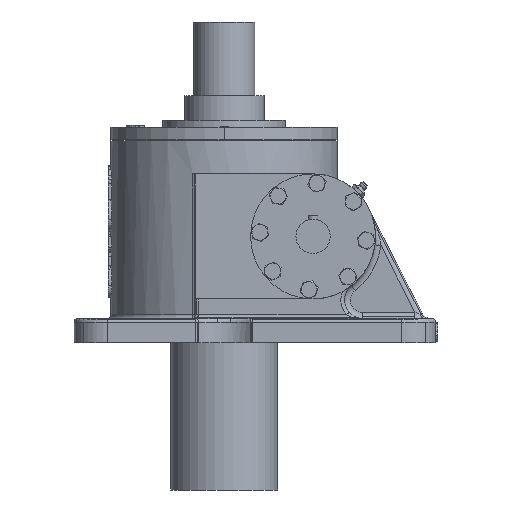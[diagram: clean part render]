
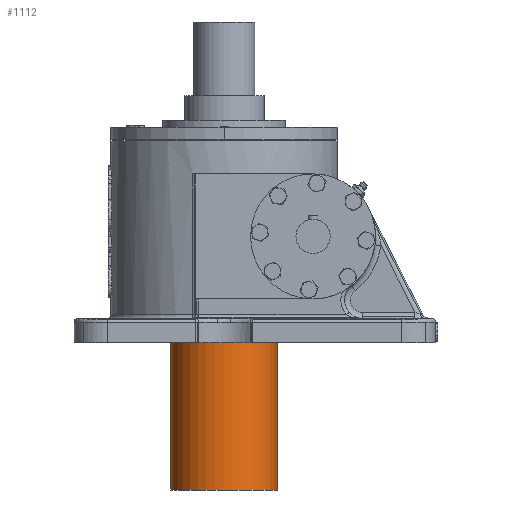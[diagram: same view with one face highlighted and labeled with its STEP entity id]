
A CAD part, front view. The second image highlights one B-rep face of the part: STEP entity #1112.
In plain terms, the highlighted cylindrical face has radius 43.5 mm (diameter 87 mm), a partial arc.
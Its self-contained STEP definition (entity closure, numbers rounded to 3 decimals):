
#1112=ADVANCED_FACE('',(#3289),#3290,.T.);
#3289=FACE_OUTER_BOUND('',#6374,.T.);
#3290=CYLINDRICAL_SURFACE('',#6375,43.5);
#6374=EDGE_LOOP('',(#14411,#14412,#14413,#14414));
#6375=AXIS2_PLACEMENT_3D('',#14415,#14416,#14417);
#14411=ORIENTED_EDGE('',*,*,#17551,.T.);
#14412=ORIENTED_EDGE('',*,*,#17555,.F.);
#14413=ORIENTED_EDGE('',*,*,#17553,.T.);
#14414=ORIENTED_EDGE('',*,*,#17556,.F.);
#14415=CARTESIAN_POINT('',(0.,0.,-60.0));
#14416=DIRECTION('',(0.,0.,-1.0));
#14417=DIRECTION('',(-1.0,0.,0.0));
#17551=EDGE_CURVE('',#21754,#21755,#21756,.T.);
#17553=EDGE_CURVE('',#21759,#21757,#21760,.T.);
#17555=EDGE_CURVE('',#21759,#21755,#21762,.T.);
#17556=EDGE_CURVE('',#21754,#21757,#21763,.T.);
#21754=VERTEX_POINT('',#30676);
#21755=VERTEX_POINT('',#30677);
#21756=LINE('',#30678,#30679);
#21757=VERTEX_POINT('',#30680);
#21759=VERTEX_POINT('',#30682);
#21760=LINE('',#30683,#30684);
#21762=CIRCLE('',#30686,43.5);
#21763=CIRCLE('',#30687,43.5);
#30676=CARTESIAN_POINT('',(-43.5,0.,0.0));
#30677=CARTESIAN_POINT('',(-43.5,0.,-120.0));
#30678=CARTESIAN_POINT('',(-43.5,0.,-60.0));
#30679=VECTOR('',#35266,1.0);
#30680=CARTESIAN_POINT('',(43.5,0.,0.));
#30682=CARTESIAN_POINT('',(43.5,0.,-120.0));
#30683=CARTESIAN_POINT('',(43.5,0.,-60.0));
#30684=VECTOR('',#35270,1.0);
#30686=AXIS2_PLACEMENT_3D('',#35274,#35275,#35276);
#30687=AXIS2_PLACEMENT_3D('',#35277,#35278,#35279);
#35266=DIRECTION('',(0.,0.,-1.0));
#35270=DIRECTION('',(0.,0.,1.0));
#35274=CARTESIAN_POINT('',(0.,0.,-120.0));
#35275=DIRECTION('',(0.,0.,-1.0));
#35276=DIRECTION('',(-1.0,0.,0.0));
#35277=CARTESIAN_POINT('',(0.0,0.0,0.0));
#35278=DIRECTION('',(0.,0.,1.0));
#35279=DIRECTION('',(-1.0,0.,0.0));
